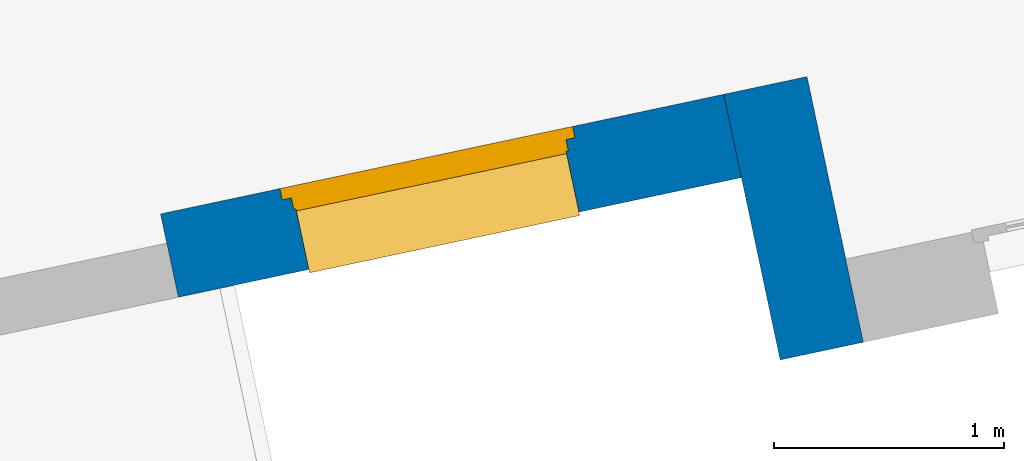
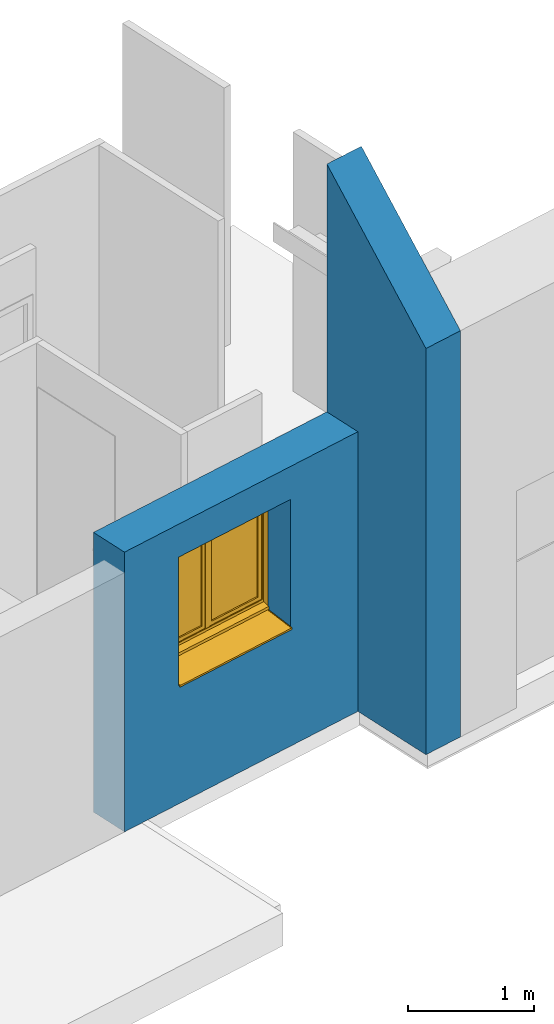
# One storey, part 3 of 11: 2 walls, 1 window, 1 opening.
"""IFC2X3 building model written with IfcOpenShell, lengths in centimetres."""

from ifc_helpers import new_model, entity, si_unit, converted_unit, derived_unit, direction, frame, frame_2d, origin, place, context, subcontext, project, spatial, polyline, rectangle, extrude, clip, bounded_halfspace, faceted_brep, source, transform, mapped, material, material_list, layer, layer_set, layer_usage, type_object, type_shapes, element, fill, save


model = new_model("IFC2X3")

# Units and contexts
model_context = context("Model", 3, precision=0.001, world=origin(), true_north=direction((6.12303176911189e-17, 1.0)))
body_context = subcontext(model_context, "Body", "Model", "MODEL_VIEW")
ifc_project = project(units=[si_unit("LENGTHUNIT", "METRE", prefix="CENTI"), si_unit("AREAUNIT", "SQUARE_METRE"), si_unit("VOLUMEUNIT", "CUBIC_METRE"), converted_unit("PLANEANGLEUNIT", "DEGREE", entity("IfcRatioMeasure", 0.0174532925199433), si_unit("PLANEANGLEUNIT", "RADIAN"), dimensions=[0, 0, 0, 0, 0, 0, 0]), si_unit("MASSUNIT", "GRAM", prefix="KILO"), derived_unit("MASSDENSITYUNIT", [(si_unit("MASSUNIT", "GRAM", prefix="KILO"), 1), (si_unit("LENGTHUNIT", "METRE"), -3)]), derived_unit("IONCONCENTRATIONUNIT", [(si_unit("MASSUNIT", "GRAM", prefix="KILO"), 1), (si_unit("LENGTHUNIT", "METRE"), -3)]), derived_unit("MOMENTOFINERTIAUNIT", [(si_unit("LENGTHUNIT", "METRE"), 4)]), si_unit("TIMEUNIT", "SECOND"), si_unit("FREQUENCYUNIT", "HERTZ"), si_unit("THERMODYNAMICTEMPERATUREUNIT", "DEGREE_CELSIUS"), derived_unit("THERMALTRANSMITTANCEUNIT", [(si_unit("MASSUNIT", "GRAM", prefix="KILO"), 1), (si_unit("THERMODYNAMICTEMPERATUREUNIT", "KELVIN"), -1), (si_unit("TIMEUNIT", "SECOND"), -3)]), derived_unit("THERMALCONDUCTANCEUNIT", [(si_unit("MASSUNIT", "GRAM", prefix="KILO"), 1), (si_unit("THERMODYNAMICTEMPERATUREUNIT", "KELVIN"), -1), (si_unit("TIMEUNIT", "SECOND"), -3), (si_unit("LENGTHUNIT", "METRE"), 1)]), derived_unit("VOLUMETRICFLOWRATEUNIT", [(si_unit("LENGTHUNIT", "METRE"), 3), (si_unit("TIMEUNIT", "SECOND"), -1)]), derived_unit("MASSFLOWRATEUNIT", [(si_unit("MASSUNIT", "GRAM", prefix="KILO"), 1), (si_unit("TIMEUNIT", "SECOND"), -1)]), derived_unit("ROTATIONALFREQUENCYUNIT", [(si_unit("TIMEUNIT", "SECOND"), -1)]), si_unit("ELECTRICCURRENTUNIT", "AMPERE"), si_unit("ELECTRICVOLTAGEUNIT", "VOLT"), si_unit("POWERUNIT", "WATT"), si_unit("FORCEUNIT", "NEWTON", prefix="KILO"), si_unit("ILLUMINANCEUNIT", "LUX"), si_unit("LUMINOUSFLUXUNIT", "LUMEN"), si_unit("LUMINOUSINTENSITYUNIT", "CANDELA"), derived_unit("USERDEFINED", [(si_unit("MASSUNIT", "GRAM", prefix="KILO"), -1), (si_unit("LENGTHUNIT", "METRE"), -2), (si_unit("TIMEUNIT", "SECOND"), 3), (si_unit("LUMINOUSFLUXUNIT", "LUMEN"), 1)]), derived_unit("USERDEFINED", [(si_unit("MASSUNIT", "GRAM", prefix="KILO"), 1), (si_unit("TIMEUNIT", "SECOND"), -3), (si_unit("LENGTHUNIT", "METRE"), 3), (si_unit("ELECTRICCURRENTUNIT", "AMPERE"), -2)]), derived_unit("SOUNDPOWERUNIT", [(si_unit("MASSUNIT", "GRAM", prefix="KILO"), 1), (si_unit("TIMEUNIT", "SECOND"), -3), (si_unit("LENGTHUNIT", "METRE"), 2)]), derived_unit("SOUNDPRESSUREUNIT", [(si_unit("MASSUNIT", "GRAM", prefix="KILO"), 1), (si_unit("LENGTHUNIT", "METRE"), -1), (si_unit("TIMEUNIT", "SECOND"), -2)]), derived_unit("LINEARVELOCITYUNIT", [(si_unit("LENGTHUNIT", "METRE"), 1), (si_unit("TIMEUNIT", "SECOND"), -1)]), si_unit("PRESSUREUNIT", "PASCAL"), derived_unit("USERDEFINED", [(si_unit("MASSUNIT", "GRAM", prefix="KILO"), 1), (si_unit("LENGTHUNIT", "METRE"), -2), (si_unit("TIMEUNIT", "SECOND"), -2)]), derived_unit("LINEARFORCEUNIT", [(si_unit("MASSUNIT", "GRAM", prefix="KILO"), 1), (si_unit("TIMEUNIT", "SECOND"), -2)]), derived_unit("PLANARFORCEUNIT", [(si_unit("MASSUNIT", "GRAM", prefix="KILO"), 1), (si_unit("LENGTHUNIT", "METRE"), -1), (si_unit("TIMEUNIT", "SECOND"), -2)]), derived_unit("SPECIFICHEATCAPACITYUNIT", [(si_unit("THERMODYNAMICTEMPERATUREUNIT", "KELVIN"), -1), (si_unit("LENGTHUNIT", "METRE"), 2), (si_unit("TIMEUNIT", "SECOND"), -2)]), derived_unit("HEATINGVALUEUNIT", [(si_unit("LENGTHUNIT", "METRE"), 2), (si_unit("TIMEUNIT", "SECOND"), -2)]), derived_unit("VAPORPERMEABILITYUNIT", [(si_unit("LENGTHUNIT", "METRE"), -1), (si_unit("TIMEUNIT", "SECOND"), 1)]), derived_unit("DYNAMICVISCOSITYUNIT", [(si_unit("MASSUNIT", "GRAM", prefix="KILO"), 1), (si_unit("TIMEUNIT", "SECOND"), -1), (si_unit("LENGTHUNIT", "METRE"), -1)]), derived_unit("THERMALEXPANSIONCOEFFICIENTUNIT", [(si_unit("THERMODYNAMICTEMPERATUREUNIT", "KELVIN"), -1)]), derived_unit("MODULUSOFELASTICITYUNIT", [(si_unit("MASSUNIT", "GRAM", prefix="KILO"), 1), (si_unit("LENGTHUNIT", "METRE"), -1), (si_unit("TIMEUNIT", "SECOND"), -2)]), derived_unit("ISOTHERMALMOISTURECAPACITYUNIT", [(si_unit("LENGTHUNIT", "METRE"), 3), (si_unit("MASSUNIT", "GRAM", prefix="KILO"), -1)]), derived_unit("MOISTUREDIFFUSIVITYUNIT", [(si_unit("TIMEUNIT", "SECOND"), -1), (si_unit("LENGTHUNIT", "METRE"), 2)])], contexts=[model_context])

# Site, building, storey
site_placement = place(None, frame((14083.8920177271, -6853.25409548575, 6900.0), z_axis=(0.0, 0.0, 1.0), x_axis=(0.978188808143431, 0.207717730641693, 0.0)))
site = spatial("IfcSite", under=ifc_project, at=site_placement, Name="Surface", CompositionType="ELEMENT")
building_placement = place(site_placement, origin())
building = spatial("IfcBuilding", under=site, at=building_placement, CompositionType="ELEMENT")
storey_placement = place(building_placement, frame((0.0, 0.0, 17.0)))
storey = spatial("IfcBuildingStorey", under=building, at=storey_placement, Name="Rez de chaussée", CompositionType="ELEMENT", Elevation=17.0000000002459)

# Wall, opening, window
ifc_material_1 = material(Name="__ ENDUIT_Blanc")
ifc_layer_1 = layer(ifc_material_1, 2.0)
ifc_material_2 = material(Name="__ BETON_parpaings")
ifc_layer_2 = layer(ifc_material_2, 20.0)
ifc_material_3 = material(Name="__ ISOLANT (pat 1)")
ifc_layer_3 = layer(ifc_material_3, 13.0)
ifc_layer_4 = layer(ifc_material_1, 2.0)
ifc_layer_set_1 = layer_set([ifc_layer_1, ifc_layer_2, ifc_layer_3, ifc_layer_4], Name="Mur de base:*BRIQUE 37 (20 +INT 13+2 + EXT 2) (Iso+BA13)(enduit)")
ifc_layer_usage_1 = layer_usage(ifc_layer_set_1, "AXIS2", "NEGATIVE", 18.5)
wall_type_1 = type_object("IfcWallType", Name="Mur de base:*BRIQUE 37 (20 +INT 13+2 + EXT 2) (Iso+BA13)(enduit)", PredefinedType="STANDARD", material=ifc_layer_set_1)
wall_1_placement = place(storey_placement, frame((-7163.9551432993, 14864.1724778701, 0.0), z_axis=(0.0, 0.0, 1.0), x_axis=(-1.0, 0.0, 0.0)))
wall_1 = element("IfcWallStandardCase", 1, at=wall_1_placement, inside=storey, type_object=wall_type_1, material=ifc_layer_usage_1, Name="Mur de base:*BRIQUE 37 (20 +INT 13+2 + EXT 2) (Iso+BA13)(enduit)", ObjectType="Mur de base:*BRIQUE 37 (20 +INT 13+2 + EXT 2) (Iso+BA13)(enduit)", context=body_context, shape_type="SweptSolid", body=[
    extrude(rectangle(XDim=250.142135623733, YDim=37.0000000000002, at=frame_2d((125.071067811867, -4.63629135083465e-13), x_axis=(-1.0, 0.0))), origin(), (0.0, 0.0, 1.0), 271.999999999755),
])
opening_placement = place(wall_1_placement, frame((197.142135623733, 50.0, 112.141193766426), z_axis=(0.0, 0.0, 1.0), x_axis=(-1.0, 0.0, 0.0)))
opening = element("IfcOpeningElement", 2, at=opening_placement, cuts=wall_1, Name="Mur de base:*BRIQUE 37 (20 +INT 13+2 + EXT 2) (Iso+BA13)(enduit)", ObjectType="Opening", context=body_context, shape_type="Brep", body=[
    faceted_brep([(125.0, 60.5000000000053, 7.85880623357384), (125.0, 58.5000000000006, 7.85880623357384), (125.0, 58.5000000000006, 127.858806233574), (125.0, 0.0, 127.858806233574), (125.0, 0.0, 0.0), (125.0, 60.5000000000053, 6.35880623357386), (5.0, 100.0, 7.85880623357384), (5.0, 68.5000000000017, 7.85880623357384), (5.0, 68.5000000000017, 127.858806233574), (5.0, 100.0, 127.858806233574), (125.0, 100.0, 7.85880623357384), (125.0, 68.5, 7.85880623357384), (130.0, 68.5, 7.85880623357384), (130.0, 63.5000000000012, 7.85880623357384), (126.0, 63.5000000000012, 7.85880623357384), (126.0, 58.5000000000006, 7.85880623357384), (5.0, 60.5000000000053, 7.8588062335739), (5.0, 58.5000000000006, 7.85880623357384), (4.0, 58.5000000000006, 7.85880623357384), (4.0, 63.5000000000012, 7.85880623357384), (0.0, 63.5000000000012, 7.85880623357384), (0.0, 68.5000000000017, 7.85880623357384), (125.0, 100.0, 127.858806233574), (5.0, 58.5000000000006, 127.858806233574), (5.0, 0.0, 127.858806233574), (5.0, 0.0, 0.0), (5.0, 60.5000000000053, 6.35880623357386), (130.0, 68.5, 132.858806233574), (130.0, 63.5000000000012, 132.858806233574), (0.0, 63.5000000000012, 132.858806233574), (4.0, 63.5000000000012, 128.858806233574), (126.0, 63.5000000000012, 128.858806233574), (126.0, 58.5000000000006, 128.858806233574), (4.0, 58.5000000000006, 128.858806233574), (125.0, 68.5000000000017, 127.858806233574), (0.0, 68.5, 132.858806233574)], [[[0, 1, 2, 3, 4, 5]], [[6, 7, 8, 9]], [[10, 11, 12, 13, 14, 15, 1, 0, 16, 17, 18, 19, 20, 21, 7, 6]], [[10, 6, 9, 22]], [[3, 2, 23, 24]], [[3, 24, 25, 4]], [[4, 25, 26, 5]], [[5, 26, 16, 0]], [[12, 27, 28, 13]], [[13, 28, 29, 20, 19, 30, 31, 14]], [[14, 31, 32, 15]], [[15, 32, 33, 18, 17, 23, 2, 1]], [[11, 34, 8, 7, 21, 35, 27, 12]], [[27, 35, 29, 28]], [[30, 33, 32, 31]], [[29, 35, 21, 20]], [[19, 18, 33, 30]], [[9, 8, 34, 22]], [[24, 23, 17, 16, 26, 25]], [[22, 34, 11, 10]]]),
])
ifc_material_4 = material(Name="Fenêtre - Poignée")
ifc_material_5 = material(Name="Fenêtre - Appui")
ifc_material_6 = material(Name="Fenêtre - Cadre")
ifc_material_7 = material(Name="Fenêtre - Vitrage")
ifc_material_list = material_list([ifc_material_4, ifc_material_5, ifc_material_6, ifc_material_7])
window_style = type_object("IfcWindowStyle", Name="2 Vantaux - Droits:120x120", ConstructionType="NOTDEFINED", OperationType="DOUBLE_PANEL_VERTICAL", ParameterTakesPrecedence=False, Sizeable=False, material=ifc_material_list)
shared_shape = source(origin(), body_context, "Body", "Brep", [
    faceted_brep([(68.0646009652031, -69.100000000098, 70.0621991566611), (68.2033929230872, -69.100000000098, 69.9234071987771), (68.2033929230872, -69.100000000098, 68.7920363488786), (68.0667698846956, -69.100000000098, 68.655413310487), (66.9332301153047, -69.100000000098, 68.655413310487), (66.7966070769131, -69.100000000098, 68.7920363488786), (66.7966070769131, -69.100000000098, 69.9234071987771), (66.9353990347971, -69.100000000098, 70.0621991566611), (68.0646009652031, -70.3913548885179, 70.0621991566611), (68.2033929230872, -70.333865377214, 69.9234071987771), (68.2033929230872, -71.664600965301, 68.5926716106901), (68.2033929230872, -71.664600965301, 59.8588062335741), (68.2033929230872, -70.5332301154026, 59.8588062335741), (68.2033929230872, -70.5332301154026, 68.1240424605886), (68.2033929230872, -69.8652362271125, 68.7920363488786), (68.0667698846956, -69.8086451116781, 68.655413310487), (66.9332301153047, -69.8086451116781, 68.655413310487), (66.7966070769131, -69.8652362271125, 68.7920363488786), (66.7966070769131, -70.5332301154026, 68.1240424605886), (66.7966070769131, -70.5332301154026, 59.8588062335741), (66.7966070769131, -71.664600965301, 59.8588062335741), (66.7966070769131, -71.664600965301, 68.5926716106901), (66.7966070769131, -70.333865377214, 69.9234071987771), (66.9353990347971, -70.3913548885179, 70.0621991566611), (68.0646009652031, -71.8033929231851, 68.650161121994), (68.0667698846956, -70.396607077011, 68.0674513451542), (66.9332301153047, -70.396607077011, 68.0674513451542), (66.9353990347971, -71.803392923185, 68.650161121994), (68.0646009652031, -71.8033929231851, 59.8588062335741), (66.9353990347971, -71.8033929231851, 59.8588062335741), (66.9332301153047, -70.396607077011, 59.8588062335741), (68.0667698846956, -70.396607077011, 59.8588062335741)], [[[0, 1, 2, 3, 4, 5, 6, 7]], [[1, 0, 8, 9]], [[2, 1, 9, 10, 11, 12, 13, 14]], [[3, 2, 14, 15]], [[4, 3, 15, 16]], [[5, 4, 16, 17]], [[6, 5, 17, 18, 19, 20, 21, 22]], [[7, 6, 22, 23]], [[0, 7, 23, 8]], [[9, 8, 24, 10]], [[15, 14, 13, 25]], [[16, 15, 25, 26]], [[17, 16, 26, 18]], [[23, 22, 21, 27]], [[8, 23, 27, 24]], [[28, 29, 20, 19, 30, 31, 12, 11]], [[10, 24, 28, 11]], [[25, 13, 12, 31]], [[26, 25, 31, 30]], [[18, 26, 30, 19]], [[27, 21, 20, 29]], [[24, 27, 29, 28]]]),
    faceted_brep([(68.2000000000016, -69.1000000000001, 71.8588062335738), (66.8, -69.1000000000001, 71.8588062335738), (66.3, -69.1000000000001, 71.3588062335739), (66.3, -69.1000000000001, 64.3588062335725), (66.7999999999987, -69.1000000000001, 63.8588062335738), (68.2000000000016, -69.1000000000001, 63.8588062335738), (68.7000000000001, -69.1000000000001, 64.3588062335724), (68.7000000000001, -69.1000000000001, 71.3588062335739), (68.2000000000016, -68.5000000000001, 71.8588062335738), (68.7000000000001, -68.5000000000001, 71.3588062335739), (68.7000000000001, -68.5000000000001, 64.3588062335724), (68.2000000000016, -68.5000000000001, 63.8588062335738), (66.7999999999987, -68.5000000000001, 63.8588062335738), (66.3, -68.5000000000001, 64.3588062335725), (66.3, -68.5000000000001, 71.3588062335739), (66.8, -68.5000000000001, 71.8588062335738)], [[[0, 1, 2, 3, 4, 5, 6, 7]], [[8, 9, 10, 11, 12, 13, 14, 15]], [[1, 0, 8, 15]], [[2, 1, 15, 14]], [[3, 2, 14, 13]], [[4, 3, 13, 12]], [[5, 4, 12, 11]], [[6, 5, 11, 10]], [[7, 6, 10, 9]], [[0, 7, 9, 8]]]),
    faceted_brep([(125.0, -30.0, 3.67864823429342), (125.0, -60.0, 6.83177529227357), (125.0, -60.0, 7.85880623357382), (125.0, -60.4999999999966, 7.85880623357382), (125.0, -60.4999999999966, 6.35880623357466), (125.0, -30.4999999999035, 3.2056791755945), (125.0, -30.4999999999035, 2.17562870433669), (125.0, -30.0, 2.12307658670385), (5.0, -30.0, 3.67864823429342), (5.0, -30.0, 2.12307658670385), (5.0, -30.4999999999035, 2.17562870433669), (5.0, -30.4999999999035, 3.2056791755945), (5.0, -60.4999999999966, 6.35880623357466), (5.0, -60.4999999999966, 7.85880623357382), (5.0, -60.0, 7.85880623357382), (5.0, -60.0, 6.83177529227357)], [[[0, 1, 2, 3, 4, 5, 6, 7]], [[8, 9, 10, 11, 12, 13, 14, 15]], [[1, 0, 8, 15]], [[2, 1, 15, 14]], [[3, 2, 14, 13]], [[4, 3, 13, 12]], [[5, 4, 12, 11]], [[6, 5, 11, 10]], [[7, 6, 10, 9]], [[0, 7, 9, 8]]]),
    faceted_brep([(5.0, -30.0, 3.82124075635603), (5.0, -30.0, 3.67864823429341), (5.0, -60.0, 6.83177529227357), (5.0, -60.0, 7.33452943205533), (5.0, -30.3581886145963, 4.21904951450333), (5.0, -30.1027420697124, 4.08889299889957), (5.49999999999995, -60.0, 7.33452943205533), (5.49999999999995, -60.0, 6.83177529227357), (5.5, -30.0, 3.67864823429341), (5.5, -30.0, 3.82124075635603), (5.5, -30.1027420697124, 4.08889299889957), (5.5, -30.3581886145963, 4.21904951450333)], [[[0, 1, 2, 3, 4, 5]], [[6, 7, 8, 9, 10, 11]], [[2, 1, 8, 7]], [[3, 2, 7, 6]], [[4, 3, 6, 11]], [[4, 11, 10, 5]], [[10, 9, 0, 5]], [[1, 0, 9, 8]]]),
    faceted_brep([(124.5, -30.0, 3.82124075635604), (124.5, -30.0, 3.67864823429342), (124.5, -60.0, 6.83177529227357), (124.5, -60.0, 7.33452943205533), (124.5, -30.3581886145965, 4.21904951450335), (124.5, -30.1027420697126, 4.08889299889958), (125.0, -60.0, 7.33452943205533), (125.0, -60.0, 6.83177529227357), (125.0, -30.0, 3.67864823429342), (125.0, -30.0, 3.82124075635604), (125.0, -30.1027420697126, 4.08889299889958), (125.0, -30.3581886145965, 4.21904951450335)], [[[0, 1, 2, 3, 4, 5]], [[6, 7, 8, 9, 10, 11]], [[2, 1, 8, 7]], [[3, 2, 7, 6]], [[4, 3, 6, 11]], [[4, 11, 10, 5]], [[10, 9, 0, 5]], [[1, 0, 9, 8]]]),
    faceted_brep([(65.0, -64.4999999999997, 127.858806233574), (65.0, -68.499999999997, 127.858806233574), (65.0, -68.499999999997, 12.8588062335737), (65.0, -64.4999999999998, 12.8588062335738), (5.0, -68.4999999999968, 12.8588062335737), (5.0, -64.4999999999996, 12.8588062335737), (5.0, -68.4999999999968, 127.858806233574), (10.0, -68.4999999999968, 17.8588062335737), (10.0, -68.4999999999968, 122.858806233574), (60.0, -68.499999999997, 122.858806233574), (60.0, -68.499999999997, 17.8588062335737), (5.0, -64.4999999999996, 127.858806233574), (60.0, -64.4999999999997, 17.8588062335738), (60.0, -64.4999999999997, 122.858806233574), (10.0, -64.4999999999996, 122.858806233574), (10.0, -64.4999999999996, 17.8588062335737)], [[[0, 1, 2, 3]], [[3, 2, 4, 5]], [[2, 1, 6, 4], [7, 8, 9, 10]], [[5, 4, 6, 11]], [[5, 11, 0, 3], [12, 13, 14, 15]], [[9, 13, 12, 10]], [[10, 12, 15, 7]], [[7, 15, 14, 8]], [[11, 6, 1, 0]], [[8, 14, 13, 9]]]),
    faceted_brep([(70.0, -65.9000000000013, 17.8588062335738), (70.0, -65.9000000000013, 122.858806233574), (120.0, -65.9000000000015, 122.858806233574), (120.0, -65.9000000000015, 17.8588062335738), (70.0, -67.1000000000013, 17.8588062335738), (70.0, -67.1000000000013, 122.858806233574), (120.0, -67.1000000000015, 122.858806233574), (120.0, -67.1000000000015, 17.8588062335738)], [[[0, 1, 2, 3]], [[1, 0, 4, 5]], [[3, 2, 6, 7]], [[0, 3, 7, 4]], [[2, 1, 5, 6]], [[4, 7, 6, 5]]]),
    faceted_brep([(60.0, -65.9000000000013, 17.8588062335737), (60.0, -65.9000000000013, 122.858806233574), (60.0, -67.1000000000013, 122.858806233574), (60.0, -67.1000000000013, 17.8588062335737), (10.0, -65.9000000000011, 17.8588062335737), (10.0, -67.1000000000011, 17.8588062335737), (10.0, -65.9000000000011, 122.858806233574), (10.0, -67.1000000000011, 122.858806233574)], [[[0, 1, 2, 3]], [[4, 0, 3, 5]], [[6, 4, 5, 7]], [[7, 5, 3, 2]], [[1, 6, 7, 2]], [[6, 1, 0, 4]]]),
    faceted_brep([(70.0, -64.5000000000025, 122.858806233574), (70.0, -68.5000000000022, 122.858806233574), (70.0, -68.5000000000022, 17.8588062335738), (70.0, -64.5000000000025, 17.8588062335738), (120.0, -68.5000000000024, 17.8588062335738), (120.0, -64.5000000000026, 17.8588062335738), (120.0, -68.5000000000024, 122.858806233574), (125.0, -68.5000000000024, 12.8588062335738), (125.0, -68.5000000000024, 127.858806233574), (65.0, -68.5000000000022, 127.858806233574), (65.0, -68.5000000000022, 12.8588062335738), (120.0, -64.5000000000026, 122.858806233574), (65.0, -64.5000000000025, 12.8588062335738), (65.0, -64.5000000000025, 127.858806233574), (125.0, -64.5000000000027, 127.858806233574), (125.0, -64.5000000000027, 12.8588062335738)], [[[0, 1, 2, 3]], [[3, 2, 4, 5]], [[2, 1, 6, 4], [7, 8, 9, 10]], [[5, 4, 6, 11]], [[5, 11, 0, 3], [12, 13, 14, 15]], [[9, 13, 12, 10]], [[10, 12, 15, 7]], [[7, 15, 14, 8]], [[11, 6, 1, 0]], [[8, 14, 13, 9]]], outer=[[True], [True], [False, True], [True], [False, True], [True], [True], [True], [True], [True]]),
    faceted_brep([(0.0, -68.5000000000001, 7.85880623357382), (0.0, -63.5000000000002, 7.85880623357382), (5.0, -63.5000000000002, 7.85880623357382), (5.0, -58.5000000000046, 7.85880623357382), (125.0, -58.5000000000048, 7.85880623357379), (125.0, -63.5000000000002, 7.85880623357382), (130.0, -63.5000000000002, 7.85880623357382), (130.0, -68.5000000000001, 7.85880623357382), (0.0, -68.5000000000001, 132.858806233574), (0.0, -63.5000000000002, 132.858806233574), (130.0, -63.5000000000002, 132.858806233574), (125.0, -63.5000000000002, 11.7964204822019), (5.0, -63.5000000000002, 11.7964204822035), (6.49999999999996, -63.5000000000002, 126.358806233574), (6.49999999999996, -63.5000000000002, 14.3588062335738), (123.5, -63.5000000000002, 14.3588062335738), (123.5, -63.5000000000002, 126.358806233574), (5.0, -57.5000000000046, 10.1887253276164), (5.0, -57.5000000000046, 7.35880623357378), (5.0, -58.5000000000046, 7.35880623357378), (125.0, -58.5000000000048, 7.35880623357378), (125.0, -57.5000000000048, 7.35880623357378), (125.0, -57.5000000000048, 10.1887253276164), (130.0, -68.5000000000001, 132.858806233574), (125.0, -68.5000000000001, 127.858806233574), (125.0, -68.5000000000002, 12.8588062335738), (5.0, -68.5000000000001, 12.8588062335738), (5.0, -68.5000000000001, 127.858806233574), (6.49999999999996, -64.5000000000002, 126.358806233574), (6.49999999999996, -64.5000000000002, 14.3588062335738), (123.5, -64.5000000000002, 14.3588062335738), (123.5, -64.5000000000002, 126.358806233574), (125.0, -64.5000000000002, 127.858806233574), (5.0, -64.5000000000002, 127.858806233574), (5.0, -64.5000000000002, 12.8588062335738), (125.0, -64.5000000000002, 12.8588062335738)], [[[0, 1, 2, 3, 4, 5, 6, 7]], [[1, 0, 8, 9]], [[1, 9, 10, 6, 5, 11, 12, 2], [13, 14, 15, 16]], [[12, 17, 18, 19, 3, 2]], [[3, 19, 20, 4]], [[4, 20, 21, 22, 11, 5]], [[6, 10, 23, 7]], [[0, 7, 23, 8], [24, 25, 26, 27]], [[13, 28, 29, 14]], [[29, 30, 15, 14]], [[31, 16, 15, 30]], [[17, 12, 11, 22]], [[32, 33, 34, 35], [28, 31, 30, 29]], [[34, 33, 27, 26]], [[26, 25, 35, 34]], [[24, 32, 35, 25]], [[18, 17, 22, 21]], [[19, 18, 21, 20]], [[13, 16, 31, 28]], [[33, 32, 24, 27]], [[10, 9, 8, 23]]]),
    faceted_brep([(5.0, -58.5, 7.85880623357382), (5.0, -63.5000000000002, 7.85880623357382), (4.0, -63.5000000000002, 7.85880623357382), (4.0, -58.5, 7.85880623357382), (5.0, -58.5, 127.858806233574), (5.0, -63.5000000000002, 127.858806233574), (125.0, -63.5000000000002, 127.858806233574), (125.0, -63.5000000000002, 7.85880623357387), (126.0, -63.5000000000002, 7.85880623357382), (126.0, -63.5000000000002, 128.858806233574), (4.0, -63.5000000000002, 128.858806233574), (4.0, -58.5, 128.858806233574), (126.0, -58.5, 128.858806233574), (126.0, -58.5, 7.85880623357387), (125.0, -58.5, 7.85880623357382), (125.0, -58.5, 127.858806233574)], [[[0, 1, 2, 3]], [[1, 0, 4, 5]], [[2, 1, 5, 6, 7, 8, 9, 10]], [[3, 2, 10, 11]], [[0, 3, 11, 12, 13, 14, 15, 4]], [[6, 15, 14, 7]], [[14, 13, 8, 7]], [[12, 9, 8, 13]], [[5, 4, 15, 6]], [[11, 10, 9, 12]]]),
    faceted_brep([(67.0, -63.7000000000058, 126.358806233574), (63.0, -63.7000000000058, 126.358806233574), (63.0, -64.5000000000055, 126.358806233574), (67.0, -64.5000000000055, 126.358806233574), (67.0, -63.7000000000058, 14.3588062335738), (67.0, -64.5000000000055, 14.3588062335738), (63.0, -64.5000000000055, 14.3588062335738), (63.0, -63.7000000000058, 14.3588062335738)], [[[0, 1, 2, 3]], [[4, 5, 6, 7]], [[1, 0, 4, 7]], [[2, 1, 7, 6]], [[3, 2, 6, 5]], [[0, 3, 5, 4]]]),
])
type_shapes(window_style, [shared_shape])
window_placement = place(opening_placement, frame((130.0, 0.0, 0.0), z_axis=(0.0, 0.0, 1.0), x_axis=(-1.0, 0.0, 0.0)))
window = element("IfcWindow", 3, at=window_placement, inside=storey, type_object=window_style, material=ifc_material_list, Name="2 Vantaux - Droits:120x120", ObjectType="2 Vantaux - Droits:120x120", OverallHeight=205.0, OverallWidth=130.0, context=body_context, shape_type="MappedRepresentation", body=[
    mapped(shared_shape, transform((0.0, 0.0, 0.0), scale=1.0)),
])
fill(opening, window)

# Wall
ifc_material_8 = material(Name="__ PIERRE______________________TEST")
ifc_layer_5 = layer(ifc_material_8, 2.0)
ifc_layer_6 = layer(ifc_material_2, 20.0)
ifc_layer_7 = layer(ifc_material_3, 13.0)
ifc_layer_8 = layer(ifc_material_1, 2.0)
ifc_layer_set_2 = layer_set([ifc_layer_5, ifc_layer_6, ifc_layer_7, ifc_layer_8], Name="Mur de base:*BRIQUE 37 (20 +INT 13+2 + EXT 2) (Iso+BA13)(parement)")
ifc_layer_usage_2 = layer_usage(ifc_layer_set_2, "AXIS2", "POSITIVE", -18.5)
wall_type_2 = type_object("IfcWallType", Name="Mur de base:*BRIQUE 37 (20 +INT 13+2 + EXT 2) (Iso+BA13)(parement)", PredefinedType="STANDARD", material=ifc_layer_set_2)
wall_2_placement = place(storey_placement, frame((-7145.4551432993, 14882.6724778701, 0.0), z_axis=(0.0, 0.0, 1.0), x_axis=(0.0, -1.0, 0.0)))
element("IfcWallStandardCase", 4, at=wall_2_placement, inside=storey, type_object=wall_type_2, material=ifc_layer_usage_2, Name="Mur de base:*BRIQUE 37 (20 +INT 13+2 + EXT 2) (Iso+BA13)(parement)", ObjectType="Mur de base:*BRIQUE 37 (20 +INT 13+2 + EXT 2) (Iso+BA13)(parement)", context=body_context, shape_type="Clipping", body=[
    clip(extrude(rectangle(XDim=117.999999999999, YDim=37.0000000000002, at=frame_2d((58.9999999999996, 0.0), x_axis=(-1.0, 0.0))), origin(), (0.0, 0.0, 1.0), 512.99999999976), bounded_halfspace(frame((0.0, -18.5000000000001, 513.0), z_axis=(0.707106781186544, 0.0, 0.707106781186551), x_axis=(0.0, 1.0, 0.0)), False, frame((0.0, -18.5000000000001, 513.0)), polyline([(0.0, 0.0), (118.0, 0.0), (118.0, 37.0), (81.0, 37.0), (0.0, 37.0), (0.0, 0.0)]))),
])

save(model, "model.ifc")
